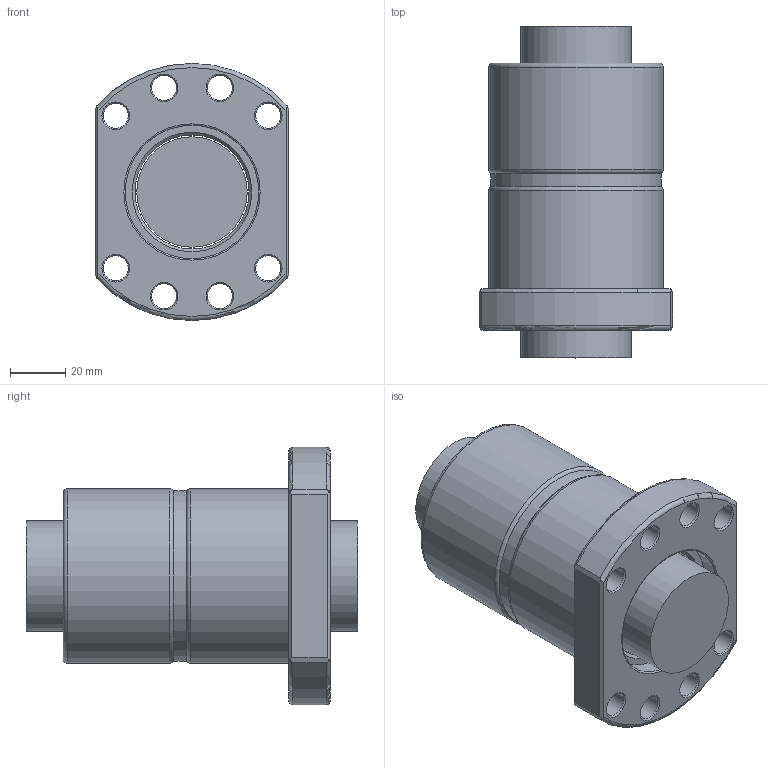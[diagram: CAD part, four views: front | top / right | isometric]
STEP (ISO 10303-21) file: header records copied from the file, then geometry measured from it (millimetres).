
FILE_DESCRIPTION(/* description */ (''),/* implementation_level */ '2;1');
FILE_NAME(/* name */ '4005.prt.step',/* time_stamp */ '2008-12-05T09:28:00+08:00',/* author */ (''),/* organization */ (''),/* preprocessor_version */ 'ST-DEVELOPER v11',/* originating_system */ 'SIEMENS UGS NX 6.0',/* authorisation */ '');
FILE_SCHEMA (('AUTOMOTIVE_DESIGN { 1 0 10303 214 1 1 1 1 }'));
Length unit declared in the file: millimetre
Products named in the file (1): 4005
Bounding box: 70 x 120 x 93 mm (x, y, z)
Volume: 346401.5 mm3; surface area: 67442.4 mm2
Topology: 4 solids, 4 shells, 75 faces, 166 edges, 104 vertices
Faces by surface type: plane 23, cylinder 21, cone 20, torus 11
Full cylindrical faces by diameter (mm): 9 x8, 39.95 x1, 41.2 x2, 43 x1, 44 x2, 48.3 x2, 61.5 x1, 63 x2
Entity records: 2073 total; most frequent: CARTESIAN_POINT 526, DIRECTION 322, ORIENTED_EDGE 226, AXIS2_PLACEMENT_3D 149, EDGE_LOOP 148, FACE_BOUND 130, EDGE_CURVE 113, VERTEX_POINT 97
